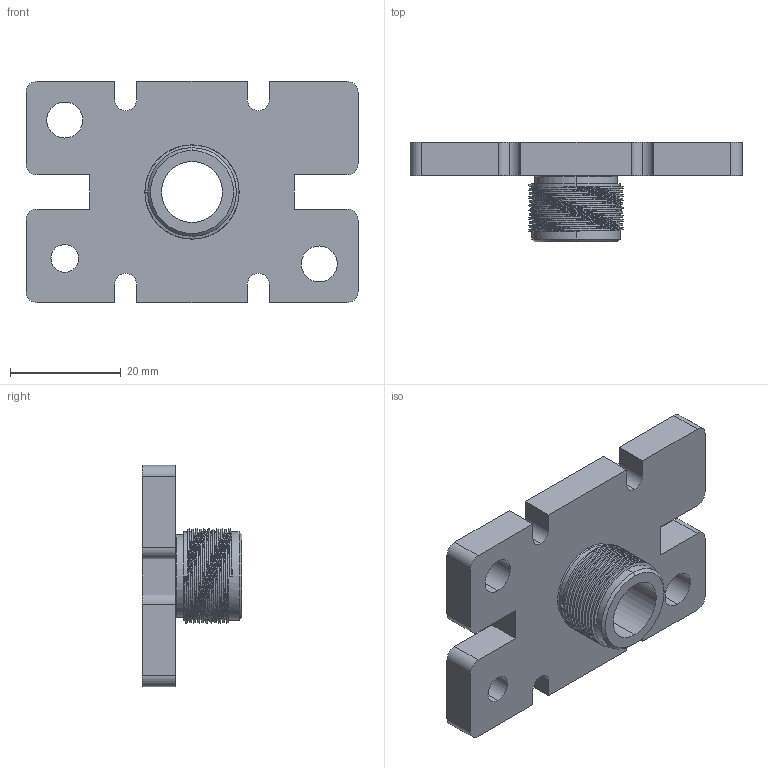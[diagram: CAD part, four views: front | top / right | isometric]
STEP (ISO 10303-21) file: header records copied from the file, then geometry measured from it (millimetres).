
FILE_DESCRIPTION (( 'STEP AP214' ), '1' );
FILE_NAME ('SMBM-32.STEP', '2019-11-06T07:55:27', ( '微软用户' ), ( '微软中国' ), 'SwSTEP 2.0', 'SolidWorks 2016', '' );
FILE_SCHEMA (( 'AUTOMOTIVE_DESIGN' ));
Length unit declared in the file: millimetre
Products named in the file (1): SMBM-32
Bounding box: 60 x 18 x 40 mm (x, y, z)
Volume: 13293.8 mm3; surface area: 7703.6 mm2
Topology: 1 solids, 1 shells, 85 faces, 237 edges, 156 vertices
Faces by surface type: cylinder 48, plane 30, bspline 5, cone 2
Entity records: 4397 total; most frequent: CARTESIAN_POINT 2284, ORIENTED_EDGE 474, DIRECTION 402, EDGE_CURVE 237, VERTEX_POINT 156, AXIS2_PLACEMENT_3D 136, LINE 130, VECTOR 130
